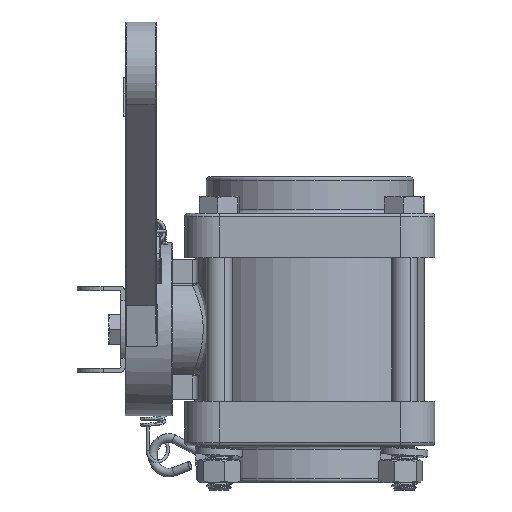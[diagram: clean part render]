
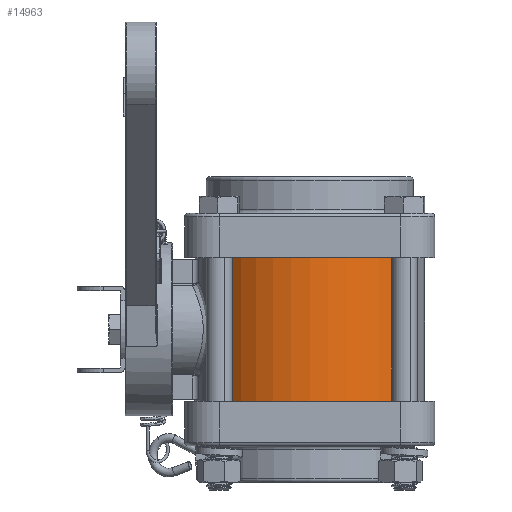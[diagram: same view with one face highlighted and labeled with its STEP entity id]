
A CAD part, left-side view. The second image highlights one B-rep face of the part: STEP entity #14963.
In plain terms, the highlighted cylindrical face has radius 42.164 mm (diameter 84.328 mm), a partial arc.
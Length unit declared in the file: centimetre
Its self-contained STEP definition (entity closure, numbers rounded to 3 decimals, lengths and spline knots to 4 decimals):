
#4202=VECTOR('',#16968,1.);
#4215=VECTOR('',#16998,1.);
#4929=LINE('',#19853,#4202);
#4942=LINE('',#20521,#4215);
#5657=VERTEX_POINT('',#19847);
#5660=VERTEX_POINT('',#19852);
#5687=VERTEX_POINT('',#20515);
#5690=VERTEX_POINT('',#20520);
#6907=CIRCLE('',#15713,4.2164);
#6908=CIRCLE('',#15714,4.2164);
#7426=EDGE_CURVE('',#5660,#5657,#4929,.T.);
#7461=EDGE_CURVE('',#5690,#5687,#4942,.T.);
#7554=EDGE_CURVE('',#5690,#5657,#6908,.T.);
#7570=EDGE_CURVE('',#5660,#5687,#6907,.T.);
#9583=ORIENTED_EDGE('',*,*,#7426,.F.);
#9584=ORIENTED_EDGE('',*,*,#7570,.T.);
#9585=ORIENTED_EDGE('',*,*,#7461,.F.);
#9586=ORIENTED_EDGE('',*,*,#7554,.T.);
#13131=EDGE_LOOP('',(#9583,#9584,#9585,#9586));
#14041=FACE_BOUND('',#13131,.T.);
#14963=ADVANCED_FACE('',(#14041),#62985,.T.);
#15712=AXIS2_PLACEMENT_3D('',#20003,#16974,#16975);
#15713=AXIS2_PLACEMENT_3D('',#20004,#16976,#16977);
#15714=AXIS2_PLACEMENT_3D('',#20032,#16978,#16979);
#16968=DIRECTION('',(0.,0.,-1.));
#16974=DIRECTION('',(0.,0.,1.));
#16975=DIRECTION('',(4.216,0.,0.));
#16976=DIRECTION('',(0.,0.,-1.));
#16977=DIRECTION('',(4.216,0.,0.));
#16978=DIRECTION('',(0.,0.,1.));
#16979=DIRECTION('',(4.216,0.,0.));
#16998=DIRECTION('',(0.,0.,1.));
#19847=CARTESIAN_POINT('',(-2.9172,-3.0443,0.));
#19852=CARTESIAN_POINT('',(-2.9172,-3.0443,5.2832));
#19853=CARTESIAN_POINT('',(-2.9172,-3.0443,0.));
#20003=CARTESIAN_POINT('',(0.,0.,0.));
#20004=CARTESIAN_POINT('',(0.,0.,5.2832));
#20032=CARTESIAN_POINT('',(0.,0.,0.));
#20515=CARTESIAN_POINT('',(-2.9172,3.0443,5.2832));
#20520=CARTESIAN_POINT('',(-2.9172,3.0443,0.));
#20521=CARTESIAN_POINT('',(-2.9172,3.0443,0.));
#62985=CYLINDRICAL_SURFACE('',#15712,4.2164);
